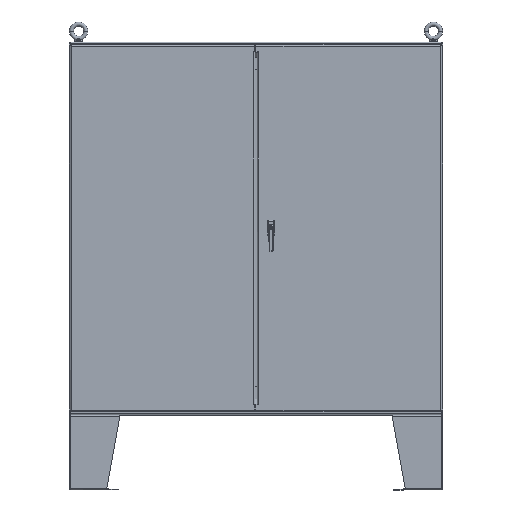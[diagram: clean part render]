
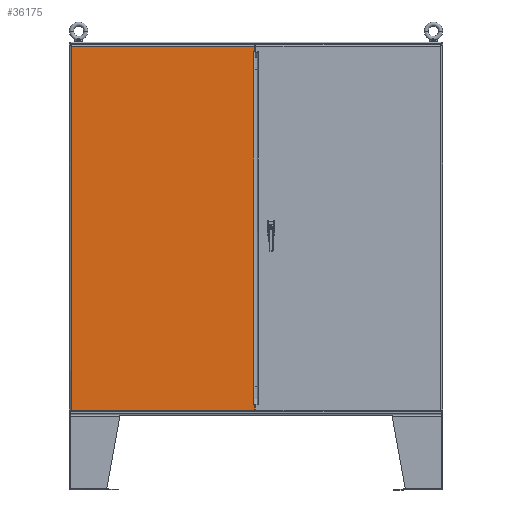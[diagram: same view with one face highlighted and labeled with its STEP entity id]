
A CAD part, top view. The second image highlights one B-rep face of the part: STEP entity #36175.
In plain terms, the highlighted planar face has unit normal (0, 0, 1).
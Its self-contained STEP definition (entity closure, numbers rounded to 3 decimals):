
#3649 = FACE_OUTER_BOUND ( 'NONE', #32906, .T. ) ;
#14879 = EDGE_CURVE ( 'NONE', #85982, #85981, #96004, .T. ) ;
#14883 = EDGE_CURVE ( 'NONE', #85803, #85978, #96007, .T. ) ;
#14917 = EDGE_CURVE ( 'NONE', #85803, #86010, #96016, .T. ) ;
#14930 = EDGE_CURVE ( 'NONE', #86000, #86010, #96024, .T. ) ;
#14935 = EDGE_CURVE ( 'NONE', #85996, #85982, #96023, .T. ) ;
#14940 = EDGE_CURVE ( 'NONE', #86000, #85998, #96019, .T. ) ;
#14945 = EDGE_CURVE ( 'NONE', #85998, #85996, #96027, .T. ) ;
#14950 = EDGE_CURVE ( 'NONE', #85981, #85978, #96029, .T. ) ;
#23080 = ORIENTED_EDGE ( 'NONE', *, *, #14883, .F. ) ;
#23084 = ORIENTED_EDGE ( 'NONE', *, *, #14917, .T. ) ;
#23087 = ORIENTED_EDGE ( 'NONE', *, *, #14930, .F. ) ;
#23090 = ORIENTED_EDGE ( 'NONE', *, *, #14940, .T. ) ;
#23093 = ORIENTED_EDGE ( 'NONE', *, *, #14945, .T. ) ;
#23096 = ORIENTED_EDGE ( 'NONE', *, *, #14935, .T. ) ;
#23099 = ORIENTED_EDGE ( 'NONE', *, *, #14879, .T. ) ;
#23102 = ORIENTED_EDGE ( 'NONE', *, *, #14950, .T. ) ;
#32906 = EDGE_LOOP ( 'NONE', ( #23080, #23084, #23087, #23090, #23093, #23096, #23099, #23102 ) ) ;
#36175 = ADVANCED_FACE ( 'NONE', ( #3649 ), #73359, .F. ) ;
#49237 = AXIS2_PLACEMENT_3D ( 'NONE', #73349, #73372, #73375 ) ;
#73349 = CARTESIAN_POINT ( 'NONE',  ( -14.873, 29.489, 0.097 ) ) ;
#73359 = PLANE ( 'NONE',  #49237 ) ;
#73372 = DIRECTION ( 'NONE',  ( 0., 0., -1. ) ) ;
#73375 = DIRECTION ( 'NONE',  ( -1., 0., 0. ) ) ;
#83349 = CARTESIAN_POINT ( 'NONE',  ( -14.873, -29.312, 0.097 ) ) ;
#83369 = DIRECTION ( 'NONE',  ( 1., 0., 0. ) ) ;
#83374 = CARTESIAN_POINT ( 'NONE',  ( 14.872, -28.392, 0.097 ) ) ;
#83375 = DIRECTION ( 'NONE',  ( 1., 0., 0. ) ) ;
#83391 = CARTESIAN_POINT ( 'NONE',  ( 14.695, -28.392, 0.097 ) ) ;
#83403 = DIRECTION ( 'NONE',  ( 0., 1., 0. ) ) ;
#83406 = CARTESIAN_POINT ( 'NONE',  ( 14.872, 28.392, 0.097 ) ) ;
#83415 = CARTESIAN_POINT ( 'NONE',  ( 309.76, 29.312, 0.097 ) ) ;
#83417 = DIRECTION ( 'NONE',  ( -1., 0., 0. ) ) ;
#83418 = CARTESIAN_POINT ( 'NONE',  ( -14.696, 29.489, 0.097 ) ) ;
#83420 = DIRECTION ( 'NONE',  ( 0., -1., 0. ) ) ;
#83424 = CARTESIAN_POINT ( 'NONE',  ( 14.872, -29.489, 0.097 ) ) ;
#83425 = DIRECTION ( 'NONE',  ( 0., 1., 0. ) ) ;
#83428 = DIRECTION ( 'NONE',  ( -1., 0., 0. ) ) ;
#83430 = CARTESIAN_POINT ( 'NONE',  ( 14.872, -29.489, 0.097 ) ) ;
#83433 = DIRECTION ( 'NONE',  ( 0., 1., 0. ) ) ;
#85803 = VERTEX_POINT ( 'NONE', #109226 ) ;
#85978 = VERTEX_POINT ( 'NONE', #109465 ) ;
#85981 = VERTEX_POINT ( 'NONE', #109469 ) ;
#85982 = VERTEX_POINT ( 'NONE', #109471 ) ;
#85996 = VERTEX_POINT ( 'NONE', #109488 ) ;
#85998 = VERTEX_POINT ( 'NONE', #109490 ) ;
#86000 = VERTEX_POINT ( 'NONE', #109492 ) ;
#86010 = VERTEX_POINT ( 'NONE', #109502 ) ;
#96004 = LINE ( 'NONE', #83349, #96005 ) ;
#96005 = VECTOR ( 'NONE', #83369, 39.37 ) ;
#96007 = LINE ( 'NONE', #83374, #96008 ) ;
#96008 = VECTOR ( 'NONE', #83375, 39.37 ) ;
#96014 = VECTOR ( 'NONE', #83403, 39.37 ) ;
#96016 = LINE ( 'NONE', #83391, #96014 ) ;
#96019 = LINE ( 'NONE', #83424, #96022 ) ;
#96021 = VECTOR ( 'NONE', #83417, 39.37 ) ;
#96022 = VECTOR ( 'NONE', #83425, 39.37 ) ;
#96023 = LINE ( 'NONE', #83418, #96026 ) ;
#96024 = LINE ( 'NONE', #83406, #96021 ) ;
#96026 = VECTOR ( 'NONE', #83420, 39.37 ) ;
#96027 = LINE ( 'NONE', #83415, #96030 ) ;
#96029 = LINE ( 'NONE', #83430, #96032 ) ;
#96030 = VECTOR ( 'NONE', #83428, 39.37 ) ;
#96032 = VECTOR ( 'NONE', #83433, 39.37 ) ;
#109226 = CARTESIAN_POINT ( 'NONE',  ( 14.695, -28.392, 0.097 ) ) ;
#109465 = CARTESIAN_POINT ( 'NONE',  ( 14.872, -28.392, 0.097 ) ) ;
#109469 = CARTESIAN_POINT ( 'NONE',  ( 14.872, -29.312, 0.097 ) ) ;
#109471 = CARTESIAN_POINT ( 'NONE',  ( -14.696, -29.312, 0.097 ) ) ;
#109488 = CARTESIAN_POINT ( 'NONE',  ( -14.696, 29.312, 0.097 ) ) ;
#109490 = CARTESIAN_POINT ( 'NONE',  ( 14.872, 29.312, 0.097 ) ) ;
#109492 = CARTESIAN_POINT ( 'NONE',  ( 14.872, 28.392, 0.097 ) ) ;
#109502 = CARTESIAN_POINT ( 'NONE',  ( 14.695, 28.392, 0.097 ) ) ;
